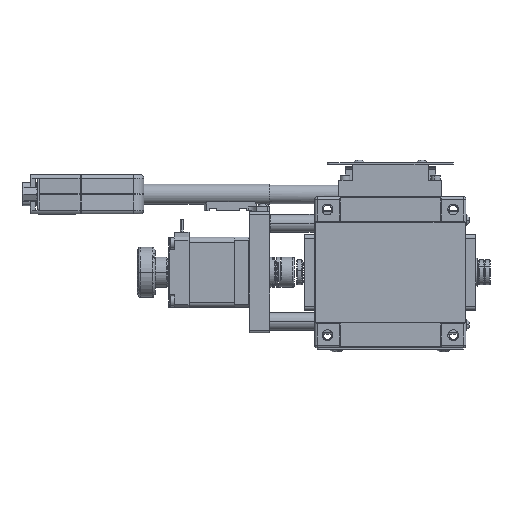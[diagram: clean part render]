
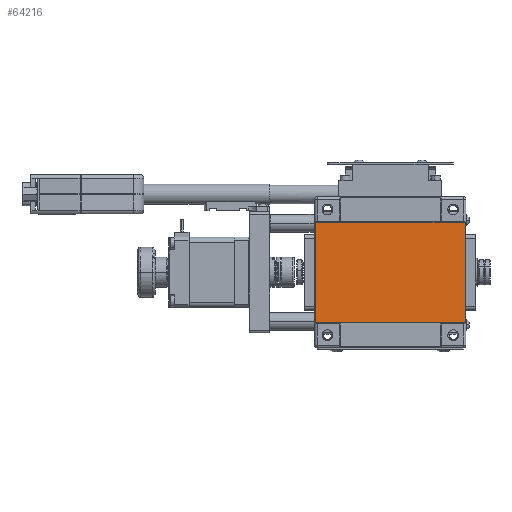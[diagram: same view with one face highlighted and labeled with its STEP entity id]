
A CAD part, front view. The second image highlights one B-rep face of the part: STEP entity #64216.
In plain terms, the highlighted planar face has unit normal (0, -1, 0).
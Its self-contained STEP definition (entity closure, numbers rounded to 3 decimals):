
#1774 = VERTEX_POINT ( 'NONE', #17415 ) ;
#2837 = FACE_OUTER_BOUND ( 'NONE', #32957, .T. ) ;
#7101 = ORIENTED_EDGE ( 'NONE', *, *, #73182, .T. ) ;
#9582 = VECTOR ( 'NONE', #56676, 1000. ) ;
#10736 = LINE ( 'NONE', #41489, #39189 ) ;
#12525 = DIRECTION ( 'NONE',  ( -1., 0., 0. ) ) ;
#15909 = EDGE_CURVE ( 'NONE', #38459, #53396, #10736, .T. ) ;
#17415 = CARTESIAN_POINT ( 'NONE',  ( 29.714, -99.7, 20. ) ) ;
#21864 = LINE ( 'NONE', #40795, #50139 ) ;
#22175 = DIRECTION ( 'NONE',  ( -1., 0., 0. ) ) ;
#23980 = CARTESIAN_POINT ( 'NONE',  ( 29.714, -99.7, -20. ) ) ;
#24756 = ORIENTED_EDGE ( 'NONE', *, *, #67957, .F. ) ;
#29643 = DIRECTION ( 'NONE',  ( 0., 0., 1. ) ) ;
#32957 = EDGE_LOOP ( 'NONE', ( #7101, #40675, #41108, #24756 ) ) ;
#38459 = VERTEX_POINT ( 'NONE', #64557 ) ;
#38913 = EDGE_CURVE ( 'NONE', #1774, #38459, #21864, .T. ) ;
#39189 = VECTOR ( 'NONE', #64198, 1000. ) ;
#40039 = VECTOR ( 'NONE', #29643, 1000. ) ;
#40675 = ORIENTED_EDGE ( 'NONE', *, *, #38913, .T. ) ;
#40795 = CARTESIAN_POINT ( 'NONE',  ( 30., -99.7, 20. ) ) ;
#41108 = ORIENTED_EDGE ( 'NONE', *, *, #15909, .T. ) ;
#41489 = CARTESIAN_POINT ( 'NONE',  ( -29.714, -99.7, 20. ) ) ;
#44594 = CARTESIAN_POINT ( 'NONE',  ( 30., -99.7, -20. ) ) ;
#44653 = VERTEX_POINT ( 'NONE', #67724 ) ;
#50139 = VECTOR ( 'NONE', #12525, 1000. ) ;
#50332 = PLANE ( 'NONE',  #71257 ) ;
#50885 = CARTESIAN_POINT ( 'NONE',  ( 30., -99.7, -20. ) ) ;
#53396 = VERTEX_POINT ( 'NONE', #71542 ) ;
#54919 = LINE ( 'NONE', #50885, #9582 ) ;
#56095 = DIRECTION ( 'NONE',  ( 0., 1., 0. ) ) ;
#56676 = DIRECTION ( 'NONE',  ( -1., 0., 0. ) ) ;
#58741 = LINE ( 'NONE', #23980, #40039 ) ;
#64198 = DIRECTION ( 'NONE',  ( 0., 0., -1. ) ) ;
#64216 = ADVANCED_FACE ( 'NONE', ( #2837 ), #50332, .F. ) ;
#64557 = CARTESIAN_POINT ( 'NONE',  ( -29.714, -99.7, 20. ) ) ;
#67724 = CARTESIAN_POINT ( 'NONE',  ( 29.714, -99.7, -20. ) ) ;
#67957 = EDGE_CURVE ( 'NONE', #44653, #53396, #54919, .T. ) ;
#71257 = AXIS2_PLACEMENT_3D ( 'NONE', #44594, #56095, #22175 ) ;
#71542 = CARTESIAN_POINT ( 'NONE',  ( -29.714, -99.7, -20. ) ) ;
#73182 = EDGE_CURVE ( 'NONE', #44653, #1774, #58741, .T. ) ;
